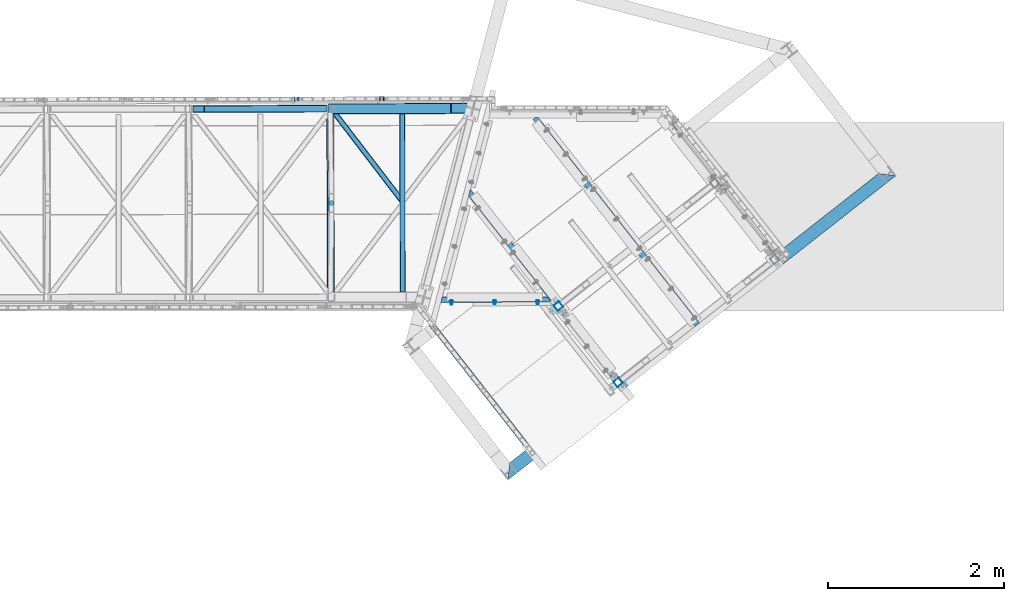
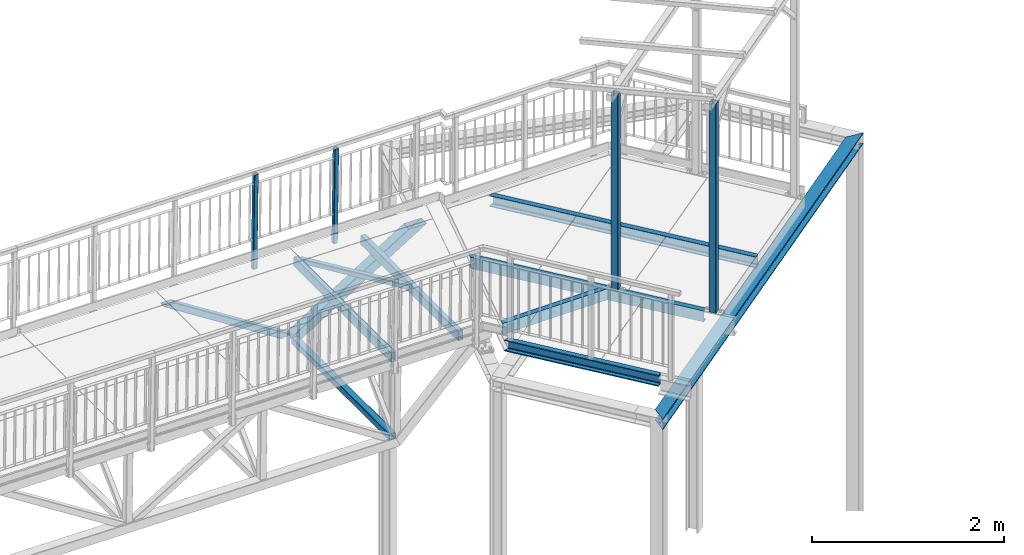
# One storey, part 62 of 169: 15 discrete accessories, 1 mechanical fastener, 7 elements without a shape of their own.
"""IFC2X3 building model written with IfcOpenShell, lengths in millimetres."""

from ifc_helpers import new_model, si_unit, frame, frame_2d, origin_with_axes, origin_2d_with_axis, place, context, subcontext, project, spatial, polyline, circle_curve, parameter, trimmed, segment, composite_curve, rectangle, hollow_rectangle, circle, i_section, u_section, outline, extrude, boolean, clip, halfspace, source, transform, mapped, material, type_object, element, aggregate, save


model = new_model("IFC2X3")

# Units and contexts
model_context = context("Model", 3, precision=1e-05, world=origin_with_axes())
body_context = subcontext(model_context, "Body", "Model", "MODEL_VIEW")
ifc_project = project(units=[si_unit("LENGTHUNIT", "METRE", prefix="MILLI"), si_unit("AREAUNIT", "SQUARE_METRE"), si_unit("VOLUMEUNIT", "CUBIC_METRE"), si_unit("MASSUNIT", "GRAM", prefix="KILO"), si_unit("TIMEUNIT", "SECOND"), si_unit("PLANEANGLEUNIT", "RADIAN"), si_unit("SOLIDANGLEUNIT", "STERADIAN"), si_unit("THERMODYNAMICTEMPERATUREUNIT", "DEGREE_CELSIUS"), si_unit("LUMINOUSINTENSITYUNIT", "LUMEN")], contexts=[model_context])

# Site, building, storey
site_placement = place(None, origin_with_axes())
site = spatial("IfcSite", under=ifc_project, at=site_placement, Name="Undefined", CompositionType="ELEMENT")
building_placement = place(site_placement, origin_with_axes())
building = spatial("IfcBuilding", under=site, at=building_placement, Name="Undefined", CompositionType="ELEMENT")
storey_placement = place(building_placement, origin_with_axes())
storey = spatial("IfcBuildingStorey", under=building, at=storey_placement, Name="Undefined", CompositionType="ELEMENT", Elevation=0.0)

# Assembly, discrete accessory
assembly_1_placement = place(storey_placement, origin_with_axes())
assembly_1 = element("IfcElementAssembly", 1, at=assembly_1_placement, inside=storey, Name="Steel Assembly", AssemblyPlace="NOTDEFINED", PredefinedType="RIGID_FRAME")
ifc_material_1 = material(Name="STEEL/S235")
discrete_accessory_type_1 = type_object("IfcDiscreteAccessoryType", Name="BEAM")
discrete_accessory_1_placement = place(assembly_1_placement, frame((20642.6494633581, -827.983040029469, 13801.7689505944), z_axis=(0.0, 0.0, 1.0), x_axis=(-0.617242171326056, 0.786773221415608, 5.09999997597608e-08)))
discrete_accessory_1 = element("IfcDiscreteAccessory", 2, at=discrete_accessory_1_placement, type_object=discrete_accessory_type_1, material=ifc_material_1, Name="BEAM", ObjectType="SHS80*4", context=body_context, shape_type="Clipping", body=[
    clip(clip(extrude(hollow_rectangle(XDim=80.0, YDim=80.0, WallThickness=4.0, InnerFilletRadius=4.0, OuterFilletRadius=8.0, at=origin_2d_with_axis()), frame((-1.81898947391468e-12, -3.4050539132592e-20, 2658.45899038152), z_axis=(-2.54700353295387e-10, 0.0, -1.0), x_axis=(0.0, 1.0, 0.0)), (0.0, 0.0, 1.0), 2652.81), halfspace(frame((1000.00000544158, -4.15700924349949e-06, 2658.45912641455), z_axis=(-2.54700353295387e-10, 0.0, -1.0), x_axis=(0.0, 1.0, 0.0)), True)), halfspace(frame((1.20170079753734e-06, -40.0000000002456, 5.64858812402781), z_axis=(0.0, 0.0, 1.0), x_axis=(-1.0, -3.46944695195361e-18, -1.38777878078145e-17)), True)),
])
aggregate(assembly_1, [discrete_accessory_1])

assembly_2_placement = place(storey_placement, origin_with_axes())
assembly_2 = element("IfcElementAssembly", 3, at=assembly_2_placement, inside=storey, Name="Steel Assembly", AssemblyPlace="NOTDEFINED", PredefinedType="RIGID_FRAME")
discrete_accessory_2_placement = place(assembly_2_placement, frame((19963.6830748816, 37.4675035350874, 13801.7688009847), z_axis=(0.0, 0.0, 1.0), x_axis=(-0.617242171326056, 0.786773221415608, 5.09999997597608e-08)))
discrete_accessory_2 = element("IfcDiscreteAccessory", 4, at=discrete_accessory_2_placement, type_object=discrete_accessory_type_1, material=ifc_material_1, Name="BEAM", ObjectType="SHS80*4", context=body_context, shape_type="Clipping", body=[
    clip(clip(extrude(hollow_rectangle(XDim=80.0, YDim=80.0, WallThickness=4.0, InnerFilletRadius=4.0, OuterFilletRadius=8.0, at=origin_2d_with_axis()), frame((6.57101462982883e-20, -3.17962670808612e-20, 2482.45913970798), z_axis=(-2.54700353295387e-10, 0.0, -1.0), x_axis=(0.0, 1.0, 0.0)), (0.0, 0.0, 1.0), 2475.81), halfspace(frame((1000.0000054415, -4.15693648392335e-06, 2482.45927574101), z_axis=(-2.54700353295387e-10, 0.0, -1.0), x_axis=(0.0, 1.0, 0.0)), True)), halfspace(frame((5.49334799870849e-10, -40.0000000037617, 6.64859210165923), z_axis=(0.0, 0.0, 1.0), x_axis=(-1.0, -3.46944695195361e-18, -1.38777878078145e-17)), True)),
])
aggregate(assembly_2, [discrete_accessory_2])

# Assembly, discrete accessories
assembly_3_placement = place(storey_placement, origin_with_axes())
assembly_3 = element("IfcElementAssembly", 5, at=assembly_3_placement, inside=storey, Name="Steel Assembly", AssemblyPlace="NOTDEFINED", PredefinedType="RIGID_FRAME")
ifc_material_2 = material(Name="STEEL/S355")
discrete_accessory_3_placement = place(assembly_3_placement, frame((21540.657449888, -174.315177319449, 13725.4176593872), z_axis=(-2.54700353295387e-10, 0.0, -1.0), x_axis=(-0.617242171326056, 0.786773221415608, 5.09999997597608e-08)))
discrete_accessory_3 = element("IfcDiscreteAccessory", 6, at=discrete_accessory_3_placement, type_object=discrete_accessory_type_1, material=ifc_material_2, Name="BEAM", ObjectType="UPN140", context=body_context, shape_type="Clipping", body=[
    clip(clip(extrude(u_section(Depth=140.0, FlangeWidth=60.0, WebThickness=7.0, FlangeThickness=10.0, FilletRadius=10.0, EdgeRadius=5.0, at=origin_2d_with_axis()), frame((2987.54782957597, 3.40000368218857e-13, 7.90797325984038e-20), z_axis=(-1.0, -3.46944695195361e-18, -1.38777878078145e-17), x_axis=(1.73472347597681e-18, -1.0, 0.0)), (0.0, 0.0, 1.0), 2987.55), halfspace(frame((3001.99150185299, -18.4764026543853, -1000.00000185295), z_axis=(-0.787837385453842, -0.615883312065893, 4.30552544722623e-08), x_axis=(-0.615883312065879, 0.787837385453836, 1.65744806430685e-07)), True)), halfspace(frame((-0.000126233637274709, 9.67104751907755e-05, -1000.00000720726), z_axis=(1.0, 0.0, 0.0), x_axis=(1.73472347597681e-18, -1.0, 0.0)), True)),
])
discrete_accessory_4_placement = place(assembly_3_placement, frame((19890.4782076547, 112.106999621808, 13725.4173738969), z_axis=(0.0, 0.0, 1.0), x_axis=(-0.999998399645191, -0.00178905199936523, -2.9999999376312e-08)))
discrete_accessory_4 = element("IfcDiscreteAccessory", 7, at=discrete_accessory_4_placement, type_object=discrete_accessory_type_1, material=ifc_material_2, Name="BEAM", ObjectType="UPN140", context=body_context, shape_type="Clipping", body=[
    clip(clip(extrude(u_section(Depth=140.0, FlangeWidth=60.0, WebThickness=7.0, FlangeThickness=10.0, FilletRadius=10.0, EdgeRadius=5.0, at=origin_2d_with_axis()), frame((1285.36840612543, 1.40675879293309e-14, 1.81898943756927e-12), z_axis=(-1.0, -3.46944695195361e-18, -1.38777878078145e-17), x_axis=(1.73472347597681e-18, -1.0, 0.0)), (0.0, 0.0, 1.0), 1293.68), halfspace(frame((1255.61411120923, 7.63080969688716, 999.999996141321), z_axis=(-0.967109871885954, 0.254358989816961, -1.71553196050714e-07), x_axis=(-0.254358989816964, -0.967109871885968, -3.50719346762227e-10)), True)), halfspace(frame((9.00821151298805, 18.4750481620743, 1000.00000441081), z_axis=(0.787876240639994, 0.615833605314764, 1.04123759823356e-07), x_axis=(-0.61583360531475, 0.787876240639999, -1.36340988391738e-07)), True)),
])
discrete_accessory_5_placement = place(assembly_3_placement, frame((19589.591011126, -1527.03087247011, 13725.4173941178), z_axis=(-2.54700353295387e-10, 0.0, -1.0), x_axis=(-0.617242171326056, 0.786773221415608, 5.09999997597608e-08)))
discrete_accessory_5 = element("IfcDiscreteAccessory", 8, at=discrete_accessory_5_placement, type_object=discrete_accessory_type_1, material=ifc_material_2, Name="BEAM", ObjectType="UPN140", context=body_context, shape_type="Clipping", body=[
    clip(extrude(u_section(Depth=140.0, FlangeWidth=60.0, WebThickness=7.0, FlangeThickness=10.0, FilletRadius=10.0, EdgeRadius=5.0, at=origin_2d_with_axis()), frame((1770.57360563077, 2.01501617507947e-13, -1.81898935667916e-12), z_axis=(-1.0, -3.46944695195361e-18, -1.38777878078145e-17), x_axis=(1.73472347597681e-18, -1.0, 0.0)), (0.0, 0.0, 1.0), 1770.57), halfspace(frame((1700.41611435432, 29.9999999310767, 0.167283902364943), z_axis=(-0.895912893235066, -0.444229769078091, -5.94185985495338e-11), x_axis=(0.0, 0.0, 1.0)), True)),
])

# Assembly, discrete accessory
assembly_4_placement = place(storey_placement, origin_with_axes())
assembly_4 = element("IfcElementAssembly", 9, at=assembly_4_placement, inside=storey, Name="Steel Assembly", AssemblyPlace="NOTDEFINED", PredefinedType="RIGID_FRAME")
discrete_accessory_6_placement = place(assembly_4_placement, frame((19401.6040895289, -1838.24891732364, 13470.4173761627), z_axis=(-2.54700353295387e-10, 0.0, -1.0), x_axis=(0.786773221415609, 0.617242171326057, 0.0)))
discrete_accessory_6 = element("IfcDiscreteAccessory", 10, at=discrete_accessory_6_placement, type_object=discrete_accessory_type_1, material=ifc_material_2, Name="BEAM", ObjectType="HEB140", context=body_context, shape_type="Clipping", body=[
    clip(clip(extrude(i_section(OverallWidth=140.0, OverallDepth=140.0, WebThickness=7.0, FlangeThickness=12.0, FilletRadius=12.0, at=origin_2d_with_axis()), frame((5612.61771114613, 7.30749516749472e-13, -1.81898918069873e-12), z_axis=(-1.0, -3.46944695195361e-18, -1.38777878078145e-17), x_axis=(1.73472347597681e-18, -1.0, 0.0)), (0.0, 0.0, 1.0), 5768.81), halfspace(frame((5526.42133654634, 70.0000000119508, 1.6065314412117e-08), z_axis=(0.707106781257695, -0.7071067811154, 8.78533101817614e-11), x_axis=(-2.54700353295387e-10, 0.0, -1.0)), False)), halfspace(frame((-70.0000145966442, 70.000000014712, 1.78188201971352e-08), z_axis=(-0.707106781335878, -0.707106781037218, 2.34571939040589e-10), x_axis=(0.0, 0.0, 1.0)), False)),
])
aggregate(assembly_4, [discrete_accessory_6])

# Discrete accessory
discrete_accessory_7_placement = place(assembly_3_placement, frame((20580.9252701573, -749.305736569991, 13725.4175252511), z_axis=(0.0, 0.0, 1.0), x_axis=(-0.617242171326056, 0.786773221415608, 5.09999997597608e-08)))
discrete_accessory_7 = element("IfcDiscreteAccessory", 11, at=discrete_accessory_7_placement, type_object=discrete_accessory_type_1, material=ifc_material_2, Name="BEAM", ObjectType="UPN140", context=body_context, shape_type="Clipping", body=[
    clip(extrude(u_section(Depth=140.0, FlangeWidth=60.0, WebThickness=7.0, FlangeThickness=10.0, FilletRadius=10.0, EdgeRadius=5.0, at=origin_2d_with_axis()), frame((2700.13644113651, -3.07290196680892e-13, -3.6379787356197e-12), z_axis=(-1.0, -3.46944695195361e-18, -1.38777878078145e-17), x_axis=(1.73472347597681e-18, -1.0, 0.0)), (0.0, 0.0, 1.0), 2700.14), halfspace(frame((2649.60316839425, -18.15969900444, 999.999991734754), z_axis=(-0.795982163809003, -0.605320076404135, -1.71244964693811e-07), x_axis=(0.605320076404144, -0.795982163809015, -5.08716766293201e-10)), True)),
])

# Assembly, discrete accessories
assembly_5_placement = place(storey_placement, origin_with_axes())
assembly_5 = element("IfcElementAssembly", 12, at=assembly_5_placement, inside=storey, Name="Steel Assembly", AssemblyPlace="NOTDEFINED", PredefinedType="RIGID_FRAME")
discrete_accessory_8_placement = place(assembly_5_placement, frame((17387.9080444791, 2277.44384994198, 13733.1482267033), z_axis=(-0.793802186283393, -0.608092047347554, 0.0101069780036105), x_axis=(0.608043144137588, -0.793866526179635, -0.00771190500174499)))
discrete_accessory_8 = element("IfcDiscreteAccessory", 13, at=discrete_accessory_8_placement, type_object=discrete_accessory_type_1, material=ifc_material_2, Name="BEAM", ObjectType="K60/4", context=body_context, shape_type="CSG", body=[
    boolean("DIFFERENCE", boolean("DIFFERENCE", boolean("DIFFERENCE", extrude(hollow_rectangle(XDim=60.0, YDim=60.0, WallThickness=4.0, InnerFilletRadius=4.0, OuterFilletRadius=8.0, at=origin_2d_with_axis()), frame((1317.7688721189, 1.14298229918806e-15, -1.89206883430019e-12), z_axis=(-1.0, -3.46944695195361e-18, -1.38777878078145e-17), x_axis=(1.73472347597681e-18, -1.0, 0.0)), (0.0, 0.0, 1.0), 1317.77), extrude(rectangle(XDim=122.0, YDim=122.0, at=origin_2d_with_axis()), frame((1232.02636237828, 0.000109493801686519, -1614.64300936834), z_axis=(-0.606610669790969, 1.9093520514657e-10, 0.794999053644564), x_axis=(0.0, 1.0, 0.0)), (0.0, 0.0, 1.0), 4062.0)), extrude(rectangle(XDim=62.0, YDim=122.0, at=origin_2d_with_axis()), frame((-1638.49305022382, 1.48884142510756e-06, -1250.22459069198), z_axis=(0.794999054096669, -5.08714775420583e-10, 0.606610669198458), x_axis=(0.606610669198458, -3.85695368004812e-10, -0.79499905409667)), (0.0, 0.0, 1.0), 4122.0)), halfspace(frame((2103.84633729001, 1.13759597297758e-08, 630.460640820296), z_axis=(-0.606610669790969, 1.9093520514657e-10, 0.794999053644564), x_axis=(1.73472347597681e-18, -1.0, 0.0)), True)),
])
discrete_accessory_9_placement = place(assembly_5_placement, frame((18196.8323866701, 138.948653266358, 13722.9142236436), z_axis=(0.012713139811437, 2.3750999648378e-05, 0.999919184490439), x_axis=(-0.0018648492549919, 0.999998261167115, -4.2996762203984e-08)))
discrete_accessory_9 = element("IfcDiscreteAccessory", 14, at=discrete_accessory_9_placement, type_object=discrete_accessory_type_1, material=ifc_material_2, Name="BEAM", ObjectType="RHS120*60*3", context=body_context, shape_type="Clipping", body=[
    clip(clip(extrude(hollow_rectangle(XDim=60.0, YDim=120.0, WallThickness=3.0, InnerFilletRadius=3.0, OuterFilletRadius=6.0, at=origin_2d_with_axis()), frame((2079.99988425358, -2.58114747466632e-16, -1.81898421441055e-12), z_axis=(-1.0, -3.46944695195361e-18, -1.38777878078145e-17), x_axis=(1.73472347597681e-18, -1.0, 0.0)), (0.0, 0.0, 1.0), 2020.0), halfspace(frame((2079.99984112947, 4.96547727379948e-08, 999.999997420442), z_axis=(-1.0, -3.46944695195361e-18, -1.38777878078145e-17), x_axis=(1.73472347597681e-18, -1.0, 0.0)), True)), halfspace(frame((59.9998947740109, 1.52502366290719e-08, 999.99999999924), z_axis=(1.0, 0.0, 0.0), x_axis=(0.0, 1.0, 0.0)), True)),
])

# Assembly, discrete accessory
assembly_6_placement = place(storey_placement, origin_with_axes())
assembly_6 = element("IfcElementAssembly", 15, at=assembly_6_placement, inside=storey, Name="Steel Assembly", AssemblyPlace="NOTDEFINED", PredefinedType="RIGID_FRAME")
discrete_accessory_10_placement = place(assembly_6_placement, frame((15778.0409160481, 2274.4416855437, 13753.6164179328), z_axis=(0.538381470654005, 0.00100403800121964, 0.842700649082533), x_axis=(0.842699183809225, 0.00157148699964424, -0.538382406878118)))
discrete_accessory_10 = element("IfcDiscreteAccessory", 16, at=discrete_accessory_10_placement, type_object=discrete_accessory_type_1, material=ifc_material_2, Name="BEAM", ObjectType="K80/4", context=body_context, shape_type="CSG", body=[
    boolean("DIFFERENCE", boolean("DIFFERENCE", boolean("DIFFERENCE", boolean("DIFFERENCE", boolean("DIFFERENCE", extrude(hollow_rectangle(XDim=80.0, YDim=80.0, WallThickness=4.0, InnerFilletRadius=4.0, OuterFilletRadius=8.0, at=origin_2d_with_axis()), frame((1895.28365458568, 2.8368149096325e-14, 0.0), z_axis=(-1.0, -3.46944695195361e-18, -1.38777878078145e-17), x_axis=(1.73472347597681e-18, -1.0, 0.0)), (0.0, 0.0, 1.0), 1895.28), extrude(rectangle(XDim=122.0, YDim=122.0, at=origin_2d_with_axis()), frame((1733.7826800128, -0.000115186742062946, 1076.8837541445), z_axis=(-0.849477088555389, 2.61340201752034e-10, -0.527625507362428), x_axis=(-0.527625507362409, 4.58604519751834e-10, 0.849477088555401)), (0.0, 0.0, 1.0), 4082.0)), extrude(rectangle(XDim=82.0, YDim=82.0, at=origin_2d_with_axis()), frame((1821.09096707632, -4.79355639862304e-07, 119.450229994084), z_axis=(0.527625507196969, -3.47074672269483e-10, -0.849477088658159), x_axis=(1.73472347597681e-18, -1.0, 0.0)), (0.0, 0.0, 1.0), 281.23)), extrude(rectangle(XDim=122.0, YDim=122.0, at=origin_2d_with_axis()), frame((2015.23235943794, -4.65916568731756e-06, 74.5024281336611), z_axis=(-0.849477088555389, 2.61340201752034e-10, -0.527625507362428), x_axis=(0.527625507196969, -3.47074672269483e-10, -0.849477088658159)), (0.0, 0.0, 1.0), 282.41)), extrude(rectangle(XDim=82.0, YDim=82.0, at=origin_2d_with_axis()), frame((-1087.43611182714, 3.77681572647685e-07, 1750.77218633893), z_axis=(0.527625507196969, -3.47074672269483e-10, -0.849477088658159), x_axis=(1.73472347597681e-18, -1.0, 0.0)), (0.0, 0.0, 1.0), 4122.0)), halfspace(frame((1895.28365458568, 2.8368149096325e-14, 0.0), z_axis=(-0.849477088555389, 2.61340201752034e-10, -0.527625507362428), x_axis=(0.0, 1.0, 0.0)), True)),
])
aggregate(assembly_6, [discrete_accessory_10])

# Discrete accessory
discrete_accessory_11_placement = place(assembly_5_placement, frame((17375.124863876, 2277.41996802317, 12733.2299328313), z_axis=(0.00186484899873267, -0.999998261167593, 4.28757666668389e-08), x_axis=(0.848670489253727, 0.00158266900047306, 0.528919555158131)))
solid = boolean("DIFFERENCE", extrude(rectangle(XDim=12.0, YDim=160.0, at=origin_2d_with_axis()), frame((1864.13170776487, -78.4062746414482, 0.297910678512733), z_axis=(-0.525298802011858, -0.850917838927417, -2.90905907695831e-11), x_axis=(-0.217185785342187, 0.13407573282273, 0.966878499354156)), (0.0, 0.0, 1.0), 55.4), halfspace(frame((1049.27173312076, 443.939863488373, -254.904796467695), z_axis=(-0.539666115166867, -0.841879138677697, 2.37688563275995e-10), x_axis=(-0.214849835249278, 0.137724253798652, 0.966887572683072)), True))
discrete_accessory_11 = element("IfcDiscreteAccessory", 17, at=discrete_accessory_11_placement, type_object=discrete_accessory_type_1, material=ifc_material_2, Name="BEAM", ObjectType="RHS120*4", context=body_context, shape_type="CSG", body=[
    boolean("DIFFERENCE", boolean("DIFFERENCE", boolean("DIFFERENCE", extrude(hollow_rectangle(XDim=120.0, YDim=120.0, WallThickness=4.0, InnerFilletRadius=4.0, OuterFilletRadius=8.0, at=origin_2d_with_axis()), frame((1884.83070993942, 4.54747350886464e-13, 8.97103505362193e-17), z_axis=(-1.0, -3.46944695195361e-18, -1.38777878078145e-17), x_axis=(1.73472347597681e-18, -1.0, 0.0)), (0.0, 0.0, 1.0), 2027.84), solid), halfspace(frame((1820.61772822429, -50.5127483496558, 999.999997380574), z_axis=(-0.539666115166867, -0.841879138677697, 2.37688563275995e-10), x_axis=(0.841879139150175, -0.539666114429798, 6.77482466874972e-08)), True)), halfspace(frame((17.5800571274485, 60.0000000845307, -8.32214936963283e-08), z_axis=(-0.9596559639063, 0.281176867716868, -6.0547960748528e-10), x_axis=(0.0, 0.0, 1.0)), False)),
])

discrete_accessory_12_placement = place(assembly_5_placement, frame((17379.1856830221, 137.423819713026, 12733.2291346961), z_axis=(0.012713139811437, 2.3750999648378e-05, 0.999919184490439), x_axis=(-0.0018648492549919, 0.999998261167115, -4.2996762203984e-08)))
discrete_accessory_12 = element("IfcDiscreteAccessory", 18, at=discrete_accessory_12_placement, type_object=discrete_accessory_type_1, material=ifc_material_2, Name="BEAM", ObjectType="K80/4", context=body_context, shape_type="Clipping", body=[
    clip(clip(extrude(hollow_rectangle(XDim=80.0, YDim=80.0, WallThickness=4.0, InnerFilletRadius=4.0, OuterFilletRadius=8.0, at=origin_2d_with_axis()), frame((2079.99999999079, 5.70364343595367e-14, -1.83064995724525e-18), z_axis=(-1.0, -3.46944695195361e-18, -1.38777878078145e-17), x_axis=(1.73472347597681e-18, -1.0, 0.0)), (0.0, 0.0, 1.0), 2020.0), halfspace(frame((2079.99999986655, -1.53990526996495e-08, 999.999999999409), z_axis=(-1.0, -3.46944695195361e-18, -1.38777878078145e-17), x_axis=(1.73472347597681e-18, -1.0, 0.0)), True)), halfspace(frame((59.9998947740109, 1.52502366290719e-08, 999.99999999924), z_axis=(1.0, 0.0, 0.0), x_axis=(0.0, 1.0, 0.0)), True)),
])

discrete_accessory_13_placement = place(assembly_5_placement, frame((17391.8988226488, 137.447571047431, 13733.1483192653), z_axis=(0.012713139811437, 2.3750999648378e-05, 0.999919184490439), x_axis=(-0.0018648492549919, 0.999998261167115, -4.2996762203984e-08)))
discrete_accessory_13 = element("IfcDiscreteAccessory", 19, at=discrete_accessory_13_placement, type_object=discrete_accessory_type_1, material=ifc_material_2, Name="BEAM", ObjectType="RHS120*60*3", context=body_context, shape_type="Clipping", body=[
    clip(clip(extrude(hollow_rectangle(XDim=60.0, YDim=120.0, WallThickness=3.0, InnerFilletRadius=3.0, OuterFilletRadius=6.0, at=origin_2d_with_axis()), frame((2079.99988425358, -2.58114747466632e-16, -1.81898421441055e-12), z_axis=(-1.0, -3.46944695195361e-18, -1.38777878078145e-17), x_axis=(1.73472347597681e-18, -1.0, 0.0)), (0.0, 0.0, 1.0), 2020.0), halfspace(frame((2079.99984112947, 4.96547727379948e-08, 999.999997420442), z_axis=(-1.0, -3.46944695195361e-18, -1.38777878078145e-17), x_axis=(1.73472347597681e-18, -1.0, 0.0)), True)), halfspace(frame((59.9998947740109, 1.52502366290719e-08, 999.99999999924), z_axis=(1.0, 0.0, 0.0), x_axis=(0.0, 1.0, 0.0)), True)),
])

aggregate(assembly_5, [discrete_accessory_8, discrete_accessory_9, discrete_accessory_11, discrete_accessory_12, discrete_accessory_13])

# Assembly, discrete accessories
assembly_7_placement = place(storey_placement, origin_with_axes())
assembly_7 = element("IfcElementAssembly", 20, at=assembly_7_placement, inside=storey, Name="Steel Assembly", AssemblyPlace="NOTDEFINED", PredefinedType="RIGID_FRAME")
discrete_accessory_type_2 = type_object("IfcDiscreteAccessoryType", Name="STANCHION")
discrete_accessory_14_placement = place(assembly_7_placement, frame((16984.6378055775, 2386.69189564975, 13798.2778358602), z_axis=(-0.0018648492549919, 0.999998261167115, -4.2996762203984e-08), x_axis=(0.012713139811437, 2.3750999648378e-05, 0.999919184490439)))
discrete_accessory_14 = element("IfcDiscreteAccessory", 21, at=discrete_accessory_14_placement, type_object=discrete_accessory_type_2, material=ifc_material_1, Name="STANCHION", ObjectType="SHS50*3", context=body_context, shape_type="Clipping", body=[
    clip(clip(extrude(hollow_rectangle(XDim=50.0, YDim=50.0, WallThickness=3.0, InnerFilletRadius=3.0, OuterFilletRadius=6.0, at=origin_2d_with_axis()), frame((1074.99999999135, -5.68489533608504e-14, -9.13224357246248e-13), z_axis=(-1.0, -3.46944695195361e-18, -1.38777878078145e-17), x_axis=(1.73472347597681e-18, -1.0, 0.0)), (0.0, 0.0, 1.0), 1195.0), halfspace(frame((1074.99999999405, -25.000000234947, -7.63429852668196e-09), z_axis=(1.0, 0.0, 0.0), x_axis=(0.0, 0.0, 1.0)), False)), halfspace(frame((-120.000000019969, -1025.00000000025, -5.14306819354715e-10), z_axis=(1.0, 0.0, 0.0), x_axis=(0.0, 0.0, 1.0)), True)),
])
discrete_accessory_15_placement = place(assembly_7_placement, frame((17951.2524595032, 2388.49448887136, 13785.9880926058), z_axis=(-0.0018648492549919, 0.999998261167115, -4.2996762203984e-08), x_axis=(0.012713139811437, 2.3750999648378e-05, 0.999919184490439)))
discrete_accessory_15 = element("IfcDiscreteAccessory", 22, at=discrete_accessory_15_placement, type_object=discrete_accessory_type_2, material=ifc_material_1, Name="STANCHION", ObjectType="SHS50*3", context=body_context, shape_type="Clipping", body=[
    clip(clip(extrude(hollow_rectangle(XDim=50.0, YDim=50.0, WallThickness=3.0, InnerFilletRadius=3.0, OuterFilletRadius=6.0, at=origin_2d_with_axis()), frame((1074.99999999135, -5.68489533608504e-14, -9.13224357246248e-13), z_axis=(-1.0, -3.46944695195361e-18, -1.38777878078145e-17), x_axis=(1.73472347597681e-18, -1.0, 0.0)), (0.0, 0.0, 1.0), 1195.0), halfspace(frame((1074.99999999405, -25.000000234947, -7.63429852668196e-09), z_axis=(1.0, 0.0, 0.0), x_axis=(0.0, 0.0, 1.0)), False)), halfspace(frame((-120.000000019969, -1025.00000000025, -5.14306819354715e-10), z_axis=(1.0, 0.0, 0.0), x_axis=(0.0, 0.0, 1.0)), True)),
])
aggregate(assembly_7, [discrete_accessory_14, discrete_accessory_15])

# Mechanical fastener
ifc_material_3 = material(Name="Undefined")
discrete_accessory_type_3 = type_object("IfcDiscreteAccessoryType", Name="Bolt assembly")
shared_shape = source(origin_with_axes(), body_context, "Body", "SweptSolid", [
    extrude(outline(composite_curve([segment(polyline([(-10.0, 7.5), (10.0, 7.5)]), True, "CONTINUOUS"), segment(trimmed(circle_curve(frame_2d((10.0, 0.0), x_axis=(0.0, 1.0)), 7.5), [parameter(0.0)], [parameter(3.14159265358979)], False, "PARAMETER"), True, "CONTINUOUS"), segment(polyline([(10.0, -7.5), (-10.0, -7.5)]), True, "CONTINUOUS"), segment(trimmed(circle_curve(frame_2d((-10.0, 0.0), x_axis=(0.0, -1.0)), 7.5), [parameter(0.0)], [parameter(3.14159265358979)], False, "PARAMETER"), True, "DISCONTINUOUS")], self_intersect=False)), frame((0.0, 0.100000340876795, 0.0), z_axis=(0.0, 1.0, 0.0), x_axis=(1.0, 0.0, 0.0)), (0.0, 0.0, 1.0), 5.0),
    extrude(circle(Radius=7.5, at=origin_2d_with_axis()), frame((0.0, 4.99997856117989, 0.0), z_axis=(0.0, 1.0, 0.0), x_axis=(1.0, 0.0, 0.0)), (0.0, 0.0, 1.0), 7.0),
    extrude(circle(Radius=7.5, at=origin_2d_with_axis()), frame((0.0, 11.899975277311, 0.0), z_axis=(0.0, 1.0, 0.0), x_axis=(1.0, 0.0, 0.0)), (0.0, 0.0, 1.0), 3.1),
    extrude(outline(polyline([(10.39230484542, 0.0), (5.19615242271, 9.00000000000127), (-5.19615242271, 9.00000000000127), (-10.39230484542, 0.0), (-5.19615242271, -9.00000000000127), (5.19615242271, -9.00000000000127), (10.39230484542, 0.0)])), frame((0.0, -10.4999989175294, 0.0), z_axis=(0.0, 1.0, 0.0), x_axis=(1.0, 0.0, 0.0)), (0.0, 0.0, 1.0), 7.5),
    extrude(circle(Radius=6.0, at=origin_2d_with_axis()), frame((0.0, -3.00000607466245, 0.0), z_axis=(0.0, 1.0, 0.0), x_axis=(1.0, 0.0, 0.0)), (0.0, 0.0, 1.0), 40.0),
    extrude(circle(Radius=12.0, at=origin_2d_with_axis()), frame((0.0, -3.00000607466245, 0.0), z_axis=(0.0, 1.0, 0.0), x_axis=(1.0, 0.0, 0.0)), (0.0, 0.0, 1.0), 3.0),
    extrude(circle(Radius=12.0, at=origin_2d_with_axis()), frame((0.0, 14.9999935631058, 0.0), z_axis=(0.0, 1.0, 0.0), x_axis=(1.0, 0.0, 0.0)), (0.0, 0.0, 1.0), 3.0),
    extrude(outline(polyline([(10.96965511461, 0.0), (5.484827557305, 9.50000000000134), (-5.484827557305, 9.50000000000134), (-10.96965511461, 0.0), (-5.484827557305, -9.50000000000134), (5.484827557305, -9.50000000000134), (10.96965511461, 0.0)])), frame((0.0, 17.9999752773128, 0.0), z_axis=(0.0, 1.0, 0.0), x_axis=(1.0, 0.0, 0.0)), (0.0, 0.0, 1.0), 10.0),
])
mechanical_fastener_placement = place(assembly_3_placement, frame((19731.4715127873, 93.8225083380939, 13740.4178881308), z_axis=(0.0, 0.0, 1.0), x_axis=(-0.999998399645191, -0.00178905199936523, -2.9999999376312e-08)))
mechanical_fastener = element("IfcMechanicalFastener", 23, at=mechanical_fastener_placement, type_object=discrete_accessory_type_3, material=ifc_material_3, Name="Bolt assembly", NominalDiameter=12.0, NominalLength=40.0, context=body_context, shape_type="MappedRepresentation", body=[
    mapped(shared_shape, transform((0.0, 0.0, 0.0))),
    mapped(shared_shape, transform((490.00000000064, 1.57811541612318e-11, 5.27506927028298e-11))),
    mapped(shared_shape, transform((980.000000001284, 3.15765191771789e-11, 1.03682396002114e-10))),
])

aggregate(assembly_3, [mechanical_fastener, discrete_accessory_3, discrete_accessory_4, discrete_accessory_5, discrete_accessory_7])

save(model, "model.ifc")
